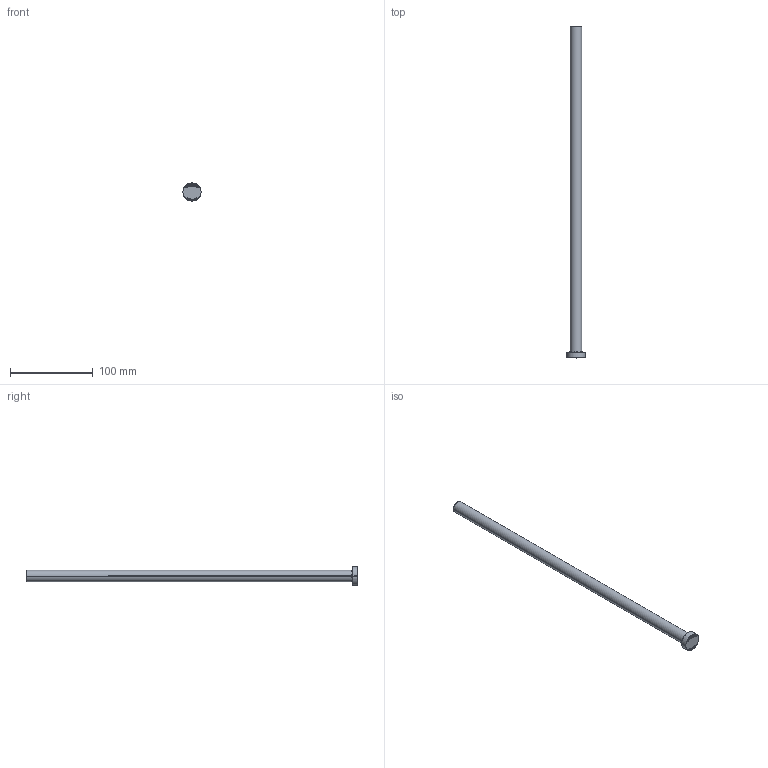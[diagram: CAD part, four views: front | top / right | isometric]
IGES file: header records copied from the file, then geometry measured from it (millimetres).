
Start section: SolidWorks IGES file using analytic representation for surfaces
Global section: file name: C:\Users\User\Downloads\Matripeça 31-08 tar\PB - PINO EXTRATOR TIPO _B_ (CATÁLOGO)\PB14,0\PB14,0400.IGS; native system: SolidWorks 2024; preprocessor: SolidWorks 2024; author: User; date: 260901.154735; units: millimetre
Bounding box: 22 x 400 x 22 mm (x, y, z)
Surface area: 18531.5 mm2 (no closed solid volume)
Topology: 0 solids, 0 shells, 400 faces, 4012 edges, 4012 vertices
Faces by surface type: bspline 386, revolution 14
